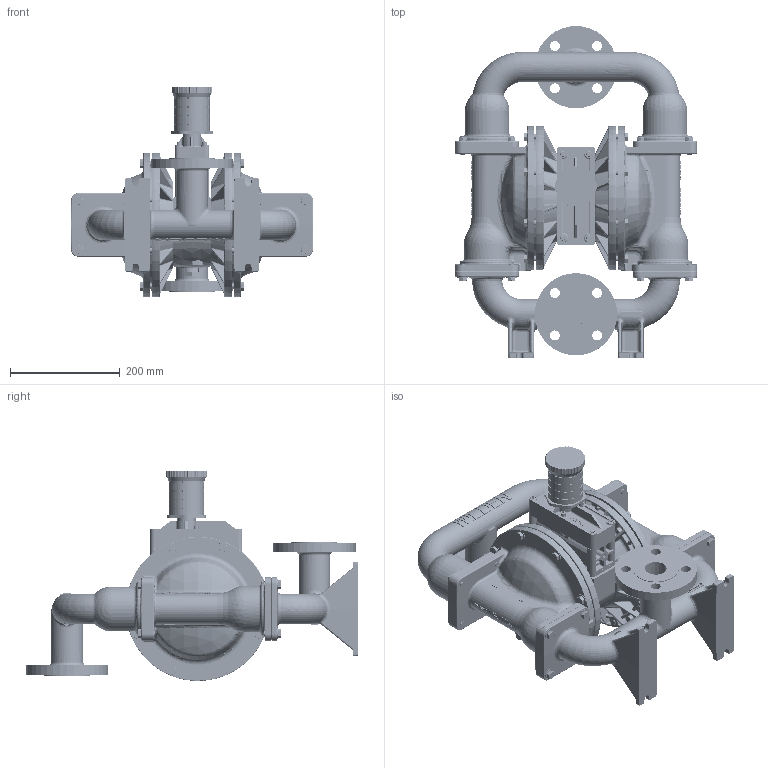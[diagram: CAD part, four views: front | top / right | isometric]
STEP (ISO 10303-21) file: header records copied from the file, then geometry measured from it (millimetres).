
FILE_DESCRIPTION (( 'STEP AP203' ), '1' );
FILE_NAME ('P430_Alum_Top_DIN.STEP', '2022-07-05T07:19:48', ( '' ), ( '' ), 'SwSTEP 2.0', 'SolidWorks 2019', '' );
FILE_SCHEMA (( 'CONFIG_CONTROL_DESIGN' ));
Products named in the file (1): P430_Alum_Top_DIN
Bounding box: 442.46 x 605.94 x 384.43 mm (x, y, z)
Volume: 15194639.5 mm3; surface area: 1148745.8 mm2
Topology: 1 solids, 1 shells, 9858 faces, 24581 edges, 15034 vertices
Faces by surface type: plane 4301, bspline 2215, cylinder 1418, cone 797, torus 778, sphere 349
Entity records: 543209 total; most frequent: CARTESIAN_POINT 328966, ORIENTED_EDGE 49074, DIRECTION 38497, EDGE_CURVE 24537, VERTEX_POINT 15021, AXIS2_PLACEMENT_3D 14039, VECTOR 10419, LINE 10419
